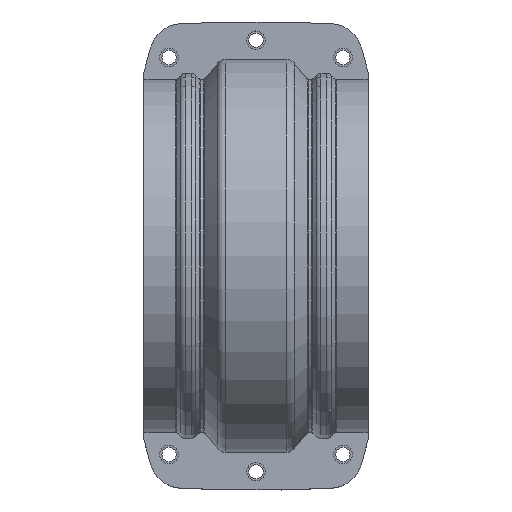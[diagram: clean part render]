
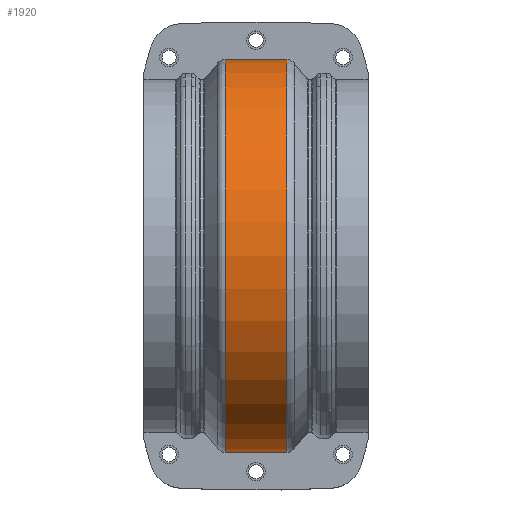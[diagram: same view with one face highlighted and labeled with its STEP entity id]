
A CAD part, top view. The second image highlights one B-rep face of the part: STEP entity #1920.
In plain terms, the highlighted cylindrical face has radius 117.8 mm (diameter 235.6 mm), a partial arc.
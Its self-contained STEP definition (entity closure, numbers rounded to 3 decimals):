
#817=CYLINDRICAL_SURFACE('',#10432,117.8);
#1322=CIRCLE('',#10429,117.8);
#1323=CIRCLE('',#10431,117.8);
#1920=ADVANCED_FACE('',(#2630),#817,.T.);
#2630=FACE_OUTER_BOUND('',#3266,.T.);
#3266=EDGE_LOOP('',(#5581,#5582,#5583,#5584));
#5581=ORIENTED_EDGE('',*,*,#8129,.F.);
#5582=ORIENTED_EDGE('',*,*,#8131,.T.);
#5583=ORIENTED_EDGE('',*,*,#8132,.T.);
#5584=ORIENTED_EDGE('',*,*,#8133,.T.);
#6875=VERTEX_POINT('',#16706);
#6876=VERTEX_POINT('',#16708);
#6877=VERTEX_POINT('',#16715);
#6878=VERTEX_POINT('',#16717);
#8129=EDGE_CURVE('',#6875,#6876,#1322,.T.);
#8131=EDGE_CURVE('',#6875,#6877,#8917,.T.);
#8132=EDGE_CURVE('',#6877,#6878,#1323,.T.);
#8133=EDGE_CURVE('',#6878,#6876,#8918,.T.);
#8917=LINE('',#16714,#9505);
#8918=LINE('',#16718,#9506);
#9505=VECTOR('',#12938,1.);
#9506=VECTOR('',#12941,1.);
#10429=AXIS2_PLACEMENT_3D('',#16707,#12934,#12935);
#10431=AXIS2_PLACEMENT_3D('',#16716,#12939,#12940);
#10432=AXIS2_PLACEMENT_3D('',#16719,#12942,#12943);
#12934=DIRECTION('',(-1.,0.,0.));
#12935=DIRECTION('',(0.,0.,1.));
#12938=DIRECTION('',(1.,0.,0.));
#12939=DIRECTION('',(-1.,0.,0.));
#12940=DIRECTION('',(0.,0.,1.));
#12941=DIRECTION('',(-1.,0.,0.));
#12942=DIRECTION('',(-1.,0.,0.));
#12943=DIRECTION('',(0.,0.,-1.));
#16706=CARTESIAN_POINT('',(-18.333,-117.696,4.958));
#16707=CARTESIAN_POINT('',(-18.333,0.,0.));
#16708=CARTESIAN_POINT('',(-18.333,117.696,4.958));
#16714=CARTESIAN_POINT('',(93.921,-117.696,4.958));
#16715=CARTESIAN_POINT('',(18.333,-117.696,4.958));
#16716=CARTESIAN_POINT('',(18.333,0.,0.));
#16717=CARTESIAN_POINT('',(18.333,117.696,4.958));
#16718=CARTESIAN_POINT('',(93.921,117.696,4.958));
#16719=CARTESIAN_POINT('',(93.921,0.,0.));
